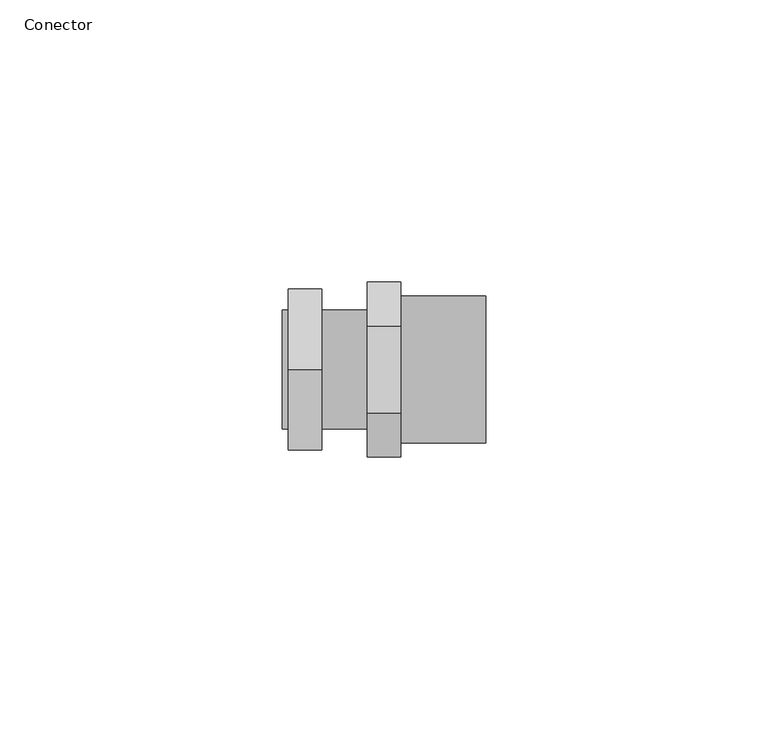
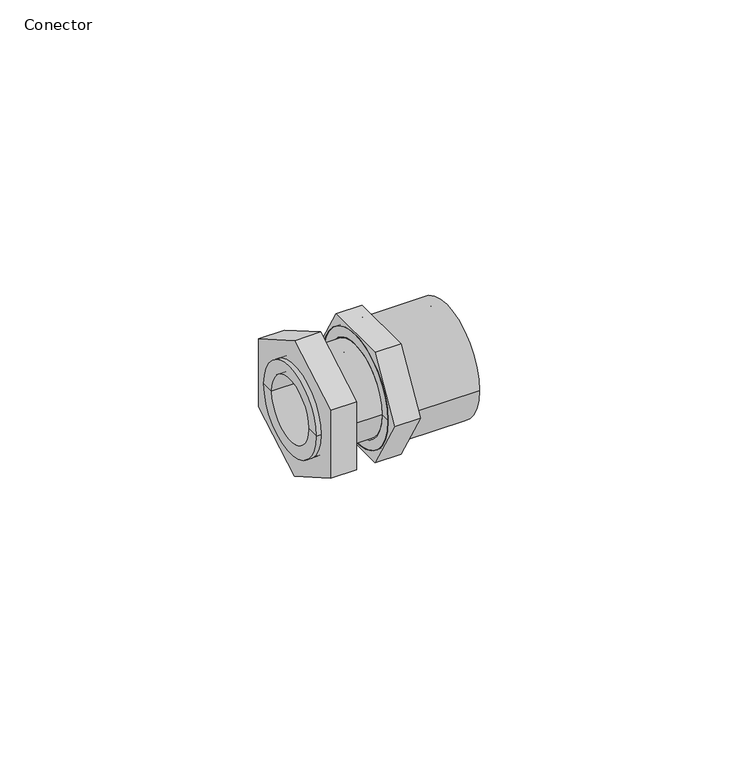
"""IFC4 building model written with IfcOpenShell, lengths in millimetres: cable carrier fitting geometry, AmancoWavin_Unionesdetubería_ConduitConector : Conector."""

from ifc_helpers import new_model, si_unit, point, frame, origin, origin_2d, place, context, project, spatial, polyline, circle_curve, trimmed, segment, composite_curve, outline, extrude, source, transform, mapped, element, save
from ifc_brep_helpers import plane_surface, cylinder_surface, revolved_surface, advanced_brep


def conector_c9d302f4(model_context):
    return source(origin(), model_context, "Body", "SolidModel", [
        extrude(outline(polyline([(-15.47, 0.0), (-7.735, 13.397413), (7.735, 13.397413), (15.47, 0.0), (7.735, -13.397413), (-7.735, -13.397413), (-15.47, 0.0)]), holes=[composite_curve([segment(trimmed(circle_curve(origin_2d(), 13.0), [point((-13.0, 0.0))], [point((13.0, 0.0))], True, "CARTESIAN"), True, "CONTINUOUS"), segment(trimmed(circle_curve(origin_2d(), 13.0), [point((13.0, 0.0))], [point((-13.0, 0.0))], True, "CARTESIAN"), True, "CONTINUOUS")], self_intersect=False)]), frame((0.0, 0.0, 0.0), z_axis=(1.0, 0.0, 0.0), x_axis=(0.0, 1.0, 0.0)), (0.0, 0.0, 1.0), 6.0),
        advanced_brep(
        [(0.0, -13.0, 0.0), (0.0, 13.0, 0.0), (21.0, 13.0, 0.0), (21.0, -13.0, 0.0), (0.0, -10.75, 0.0), (0.0, 10.75, 0.0), (21.0, -10.75, 0.0), (21.0, 10.75, 0.0)],
        [
            (0, 1, circle_curve(frame((0.0, 0.0, 0.0), z_axis=(1.0, 0.0, 0.0), x_axis=(0.0, 1.0, 0.0)), 13.0)),
            (1, 2),
            (2, 3, circle_curve(frame((21.0, 0.0, 0.0), z_axis=(-1.0, 0.0, 0.0), x_axis=(0.0, 1.0, 0.0)), 13.0)),
            (3, 0),
            (1, 0, circle_curve(frame((0.0, 0.0, 0.0), z_axis=(1.0, 0.0, 0.0), x_axis=(0.0, 1.0, 0.0)), 13.0)),
            (3, 2, circle_curve(frame((21.0, 0.0, 0.0), z_axis=(-1.0, 0.0, 0.0), x_axis=(0.0, 1.0, 0.0)), 13.0)),
            (4, 5, circle_curve(frame((0.0, 0.0, 0.0), z_axis=(1.0, 0.0, 0.0), x_axis=(0.0, 1.0, 0.0)), 10.75)),
            (5, 1),
            (0, 4),
            (5, 4, circle_curve(frame((0.0, 0.0, 0.0), z_axis=(1.0, 0.0, 0.0), x_axis=(0.0, 1.0, 0.0)), 10.75)),
            (6, 7, circle_curve(frame((21.0, 0.0, 0.0), z_axis=(1.0, 0.0, 0.0), x_axis=(0.0, 1.0, 0.0)), 10.75)),
            (7, 5),
            (4, 6),
            (7, 6, circle_curve(frame((21.0, 0.0, 0.0), z_axis=(1.0, 0.0, 0.0), x_axis=(0.0, 1.0, 0.0)), 10.75)),
            (2, 7),
            (6, 3),
        ],
        [
            cylinder_surface(frame((1998.5, 0.0, 0.0), z_axis=(-1.0, 0.0, 0.0), x_axis=(0.0, 1.0, 0.0)), 13.0),
            plane_surface(frame((0.0, 0.0, 0.0), z_axis=(-1.0, 0.0, 0.0), x_axis=(0.0, 1.0, 0.0))),
            revolved_surface(polyline([(0.0, 10.75, 0.0), (21.0, 10.75, 0.0)]), (1998.5, 0.0, 0.0), (-1.0, 0.0, 0.0)),
            plane_surface(frame((21.0, 0.0, 0.0), z_axis=(1.0, 0.0, 0.0), x_axis=(0.0, 1.0, 0.0))),
        ],
        [
            (0, [[1, 2, 3, 4]]),
            (0, [[5, -4, 6, -2]]),
            (1, [[7, 8, -1, 9]]),
            (1, [[10, -9, -5, -8]]),
            (2, [[11, 12, -7, 13]]),
            (2, [[14, -13, -10, -12]]),
            (3, [[-3, 15, -11, 16]]),
            (3, [[-6, -16, -14, -15]]),
        ],
    ),
        extrude(outline(polyline([(14.2894192, 8.25), (14.2894192, -8.25), (0.0, -16.5), (-14.2894192, -8.25), (-14.2894192, 8.25), (0.0, 16.5), (14.2894192, 8.25)]), holes=[composite_curve([segment(trimmed(circle_curve(origin_2d(), 10.5), [point((-10.5, 0.0))], [point((10.5, 0.0))], True, "CARTESIAN"), True, "CONTINUOUS"), segment(trimmed(circle_curve(origin_2d(), 10.5), [point((10.5, 0.0))], [point((-10.5, 0.0))], True, "CARTESIAN"), True, "CONTINUOUS")], self_intersect=False)]), frame((-14.0, 0.0, 0.0), z_axis=(1.0, 0.0, 0.0), x_axis=(0.0, 1.0, 0.0)), (0.0, 0.0, 1.0), 6.0),
        advanced_brep(
        [(-15.0, -10.5, 0.0), (-15.0, 10.5, 0.0), (0.0, 10.5, 0.0), (0.0, -10.5, 0.0), (-15.0, -7.5, 0.0), (-15.0, 7.5, 0.0), (0.0, -7.5, 0.0), (0.0, 7.5, 0.0)],
        [
            (0, 1, circle_curve(frame((-15.0, 0.0, 0.0), z_axis=(1.0, 0.0, 0.0), x_axis=(0.0, 1.0, 0.0)), 10.5)),
            (1, 2),
            (2, 3, circle_curve(frame((0.0, 0.0, 0.0), z_axis=(-1.0, 0.0, 0.0), x_axis=(0.0, 1.0, 0.0)), 10.5)),
            (3, 0),
            (1, 0, circle_curve(frame((-15.0, 0.0, 0.0), z_axis=(1.0, 0.0, 0.0), x_axis=(0.0, 1.0, 0.0)), 10.5)),
            (3, 2, circle_curve(frame((0.0, 0.0, 0.0), z_axis=(-1.0, 0.0, 0.0), x_axis=(0.0, 1.0, 0.0)), 10.5)),
            (4, 5, circle_curve(frame((-15.0, 0.0, 0.0), z_axis=(1.0, 0.0, 0.0), x_axis=(0.0, 1.0, 0.0)), 7.5)),
            (5, 1),
            (0, 4),
            (5, 4, circle_curve(frame((-15.0, 0.0, 0.0), z_axis=(1.0, 0.0, 0.0), x_axis=(0.0, 1.0, 0.0)), 7.5)),
            (6, 7, circle_curve(frame((0.0, 0.0, 0.0), z_axis=(1.0, 0.0, 0.0), x_axis=(0.0, 1.0, 0.0)), 7.5)),
            (7, 5),
            (4, 6),
            (7, 6, circle_curve(frame((0.0, 0.0, 0.0), z_axis=(1.0, 0.0, 0.0), x_axis=(0.0, 1.0, 0.0)), 7.5)),
            (2, 7),
            (6, 3),
        ],
        [
            cylinder_surface(frame((1998.5, 0.0, 0.0), z_axis=(-1.0, 0.0, 0.0), x_axis=(0.0, 1.0, 0.0)), 10.5),
            plane_surface(frame((-15.0, 0.0, 0.0), z_axis=(-1.0, 0.0, 0.0), x_axis=(0.0, 1.0, 0.0))),
            revolved_surface(polyline([(-15.0, 7.5, 0.0), (0.0, 7.5, 0.0)]), (1998.5, 0.0, 0.0), (-1.0, 0.0, 0.0)),
            plane_surface(frame((0.0, 0.0, 0.0), z_axis=(1.0, 0.0, 0.0), x_axis=(0.0, 1.0, 0.0))),
        ],
        [
            (0, [[1, 2, 3, 4]]),
            (0, [[5, -4, 6, -2]]),
            (1, [[7, 8, -1, 9]]),
            (1, [[10, -9, -5, -8]]),
            (2, [[11, 12, -7, 13]]),
            (2, [[14, -13, -10, -12]]),
            (3, [[-3, 15, -11, 16]]),
            (3, [[-6, -16, -14, -15]]),
        ],
    ),
    ])


if __name__ == "__main__":
    model = new_model("IFC4")
    model_context = context("Model", 3, world=origin())
    ifc_project = project(units=[si_unit("LENGTHUNIT", "METRE", prefix="MILLI")], contexts=[model_context])
    site = spatial("IfcSite", under=ifc_project)
    building = spatial("IfcBuilding", under=site)
    placement = place(None, origin())
    conector_shape = conector_c9d302f4(model_context)
    element("IfcCableCarrierFitting", 1, ObjectType="AmancoWavin_Unionesdetubería_ConduitConector : Conector", at=placement, inside=building, context=model_context, shape_type="MappedRepresentation", body=[
        mapped(conector_shape, transform((0.0, 0.0, 0.0), x_axis=(1.0, 0.0, 0.0), y_axis=(0.0, 1.0, 0.0), z_axis=(0.0, 0.0, 1.0))),
    ])
    save(model, "model.ifc")
